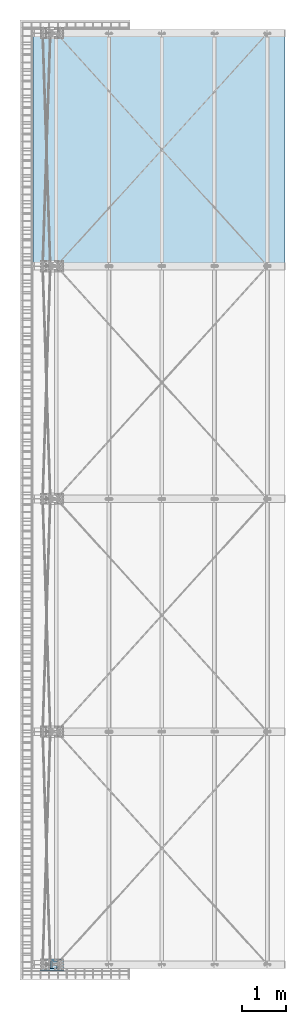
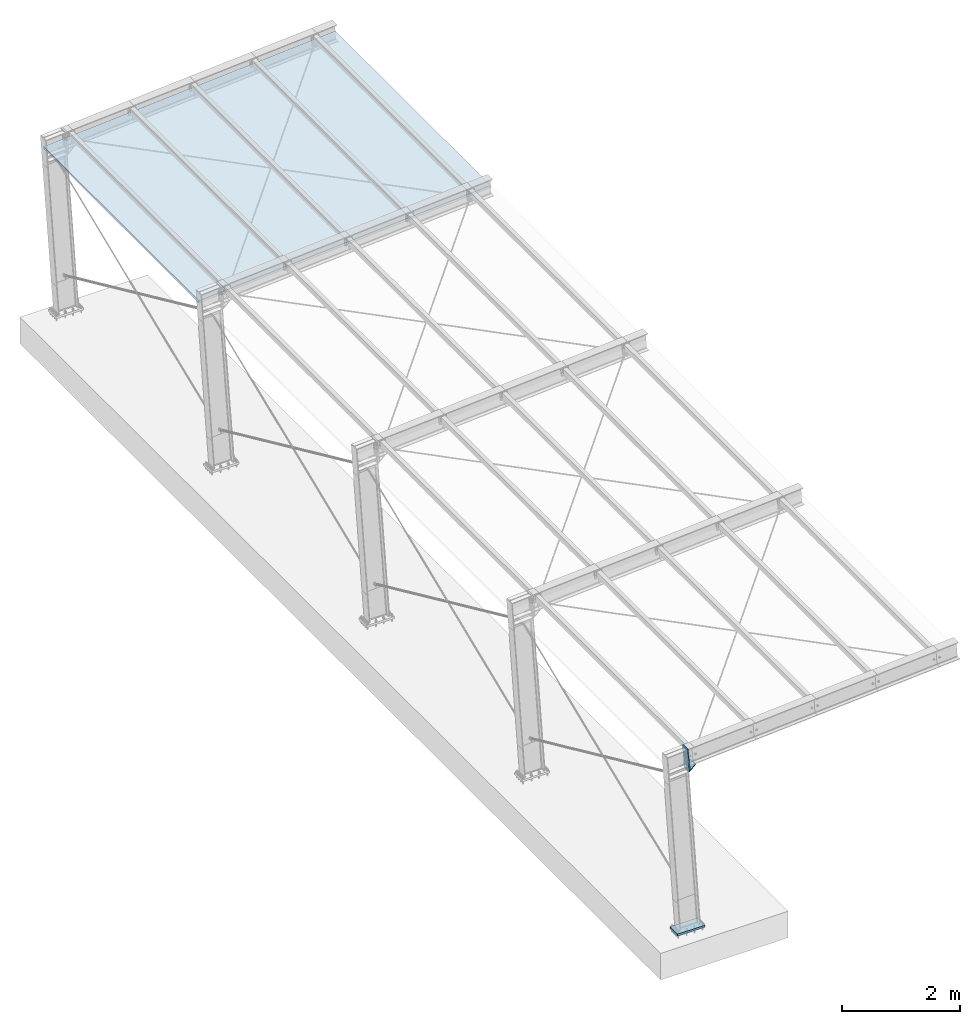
# One storey, part 3 of 72: 6 slabs, 3 plates.
"""IFC4 building model written with IfcOpenShell, lengths in metres."""

from ifc_helpers import new_model, si_unit, frame, origin_with_axes, place, context, project, spatial, polyline, outline, extrude, material, type_object, element, save


model = new_model("IFC4")

# Units and contexts
model_context = context("Model", 3, precision=1e-05, world=origin_with_axes())
ifc_project = project(units=[si_unit("LENGTHUNIT", "METRE"), si_unit("AREAUNIT", "SQUARE_METRE"), si_unit("VOLUMEUNIT", "CUBIC_METRE"), si_unit("MASSUNIT", "GRAM", prefix="KILO"), si_unit("TIMEUNIT", "SECOND"), si_unit("PLANEANGLEUNIT", "RADIAN"), si_unit("SOLIDANGLEUNIT", "STERADIAN"), si_unit("THERMODYNAMICTEMPERATUREUNIT", "DEGREE_CELSIUS")], contexts=[model_context])

# Site, building, storey
placement_1 = place(None, origin_with_axes())
site = spatial("IfcSite", under=ifc_project, at=placement_1, Name="Italia", CompositionType="ELEMENT")
building = spatial("IfcBuilding", under=site, at=placement_1, Name="Pensilina", CompositionType="ELEMENT")
storey = spatial("IfcBuildingStorey", under=building, at=placement_1, Name="Storey 0", CompositionType="ELEMENT", Elevation=0.0)

# Plates
plate_type_1 = type_object("IfcPlateType", Name="Collegamento 0001_-196", PredefinedType="SHEET")
placement_2 = place(placement_1, origin_with_axes())
plate_1_placement = place(placement_2, origin_with_axes())
element("IfcPlate", 1, at=plate_1_placement, inside=storey, type_object=plate_type_1, Name="Collegamento 0001_-196", context=model_context, shape_type="SweptSolid", body=[
    extrude(outline(polyline([(0.0, 0.0, 0.0), (-0.26, 0.0, 0.0), (-0.26, 0.54094, 0.0), (0.0, 0.54094, 0.0), (0.0, 0.0, 0.0)])), frame((0.65818, 0.13, 0.103708), z_axis=(0.0, 0.0, -1.0), x_axis=(0.0, 1.0, 0.0)), (0.0, 0.0, 1.0), 0.04),
])
plate_type_2 = type_object("IfcPlateType", Name="Collegamento 0101_0201", PredefinedType="SHEET")
plate_2_placement = place(placement_2, origin_with_axes())
element("IfcPlate", 2, at=plate_2_placement, inside=storey, type_object=plate_type_2, Name="Collegamento 0101_0201", context=model_context, shape_type="SweptSolid", body=[
    extrude(outline(polyline([(0.0, 0.0, 0.0), (-0.17, 0.0, 0.0), (-0.17, 0.48, 0.0), (0.0, 0.48, 0.0), (0.0, 0.0, 0.0)])), frame((0.934563, -0.085, 3.34984), z_axis=(-0.997648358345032, 0.0, -0.068540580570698), x_axis=(0.0, -1.0, 0.0)), (0.0, 0.0, 1.0), 0.025),
])
plate_type_3 = type_object("IfcPlateType", Name="Collegamento 0101_0201", PredefinedType="SHEET")
plate_3_placement = place(placement_2, origin_with_axes())
element("IfcPlate", 3, at=plate_3_placement, inside=storey, type_object=plate_type_3, Name="Collegamento 0101_0201", context=model_context, shape_type="SweptSolid", body=[
    extrude(outline(polyline([(0.0, 0.0, 0.0), (0.17, 0.0, 0.0), (0.17, -0.145344, 0.0), (0.0, -0.145344, 0.0), (0.0, 0.0, 0.0)])), frame((1.03608, -0.085, 3.47709), z_axis=(0.703953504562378, 0.0, -0.710246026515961), x_axis=(0.0, 1.0, 0.0)), (0.0, 0.0, 1.0), 0.0140001),
])

# Slabs
ifc_material_1 = material(Name="CEMENTO ARMATO", Category="CEMENTO ARMATO")
slab_type_1 = type_object("IfcSlabType", Name="1 Tettoia", PredefinedType="FLOOR", material=ifc_material_1)
slab_1_placement = place(placement_2, origin_with_axes())
element("IfcSlab", 4, at=slab_1_placement, inside=storey, type_object=slab_type_1, Name="403", context=model_context, shape_type="SweptSolid", body=[
    extrude(outline(polyline([(0.0, 0.0, 0.0), (0.0, 1.19995, 0.0), (5.28, 1.19995, 0.0), (5.28, 0.0, 0.0), (0.0, 0.0, 0.0)])), frame((2.22096, 15.84, 3.73892), z_axis=(0.068540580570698, 0.0, -0.997648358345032), x_axis=(0.0, 1.0, 0.0)), (0.0, 0.0, 1.0), 0.05),
])
ifc_material_2 = material(Name="CEMENTO ARMATO", Category="CEMENTO ARMATO")
slab_type_2 = type_object("IfcSlabType", Name="1 Tettoia", PredefinedType="FLOOR", material=ifc_material_2)
slab_2_placement = place(placement_2, origin_with_axes())
element("IfcSlab", 5, at=slab_2_placement, inside=storey, type_object=slab_type_2, Name="503", context=model_context, shape_type="SweptSolid", body=[
    extrude(outline(polyline([(0.0, 0.0, 0.0), (0.0, 1.20003, 0.0), (5.28, 1.20003, 0.0), (5.28, 0.0, 0.0), (0.0, 0.0, 0.0)])), frame((3.41809, 15.84, 3.82117), z_axis=(0.068540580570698, 0.0, -0.997648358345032), x_axis=(0.0, 1.0, 0.0)), (0.0, 0.0, 1.0), 0.05),
])
ifc_material_3 = material(Name="CEMENTO ARMATO", Category="CEMENTO ARMATO")
slab_type_3 = type_object("IfcSlabType", Name="1 Tettoia", PredefinedType="FLOOR", material=ifc_material_3)
slab_3_placement = place(placement_2, origin_with_axes())
element("IfcSlab", 6, at=slab_3_placement, inside=storey, type_object=slab_type_3, Name="603", context=model_context, shape_type="SweptSolid", body=[
    extrude(outline(polyline([(0.0, 0.0, 0.0), (0.0, 1.20003, 0.0), (5.28, 1.20003, 0.0), (5.28, 0.0, 0.0), (0.0, 0.0, 0.0)])), frame((4.6153, 15.84, 3.90342), z_axis=(0.068540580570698, 0.0, -0.997648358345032), x_axis=(0.0, 1.0, 0.0)), (0.0, 0.0, 1.0), 0.05),
])
ifc_material_4 = material(Name="CEMENTO ARMATO", Category="CEMENTO ARMATO")
slab_type_4 = type_object("IfcSlabType", Name="1 Tettoia", PredefinedType="FLOOR", material=ifc_material_4)
slab_4_placement = place(placement_2, origin_with_axes())
element("IfcSlab", 7, at=slab_4_placement, inside=storey, type_object=slab_type_4, Name="201", context=model_context, shape_type="SweptSolid", body=[
    extrude(outline(polyline([(0.0, 0.0, 0.0), (0.0, 0.535, 0.0), (5.28, 0.535, 0.0), (5.28, 0.0, 0.0), (0.0, 0.0, 0.0)])), frame((0.49, 15.84, 3.62), z_axis=(0.068540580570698, 0.0, -0.997648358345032), x_axis=(0.0, 1.0, 0.0)), (0.0, 0.0, 1.0), 0.05),
])
ifc_material_5 = material(Name="CEMENTO ARMATO", Category="CEMENTO ARMATO")
slab_type_5 = type_object("IfcSlabType", Name="1 Tettoia", PredefinedType="FLOOR", material=ifc_material_5)
slab_5_placement = place(placement_2, origin_with_axes())
element("IfcSlab", 8, at=slab_5_placement, inside=storey, type_object=slab_type_5, Name="702", context=model_context, shape_type="SweptSolid", body=[
    extrude(outline(polyline([(0.0, 0.0, 0.0), (0.0, 0.399981, 0.0), (5.28, 0.399981, 0.0), (5.28, 0.0, 0.0), (0.0, 0.0, 0.0)])), frame((5.81251, 15.84, 3.98567), z_axis=(0.068540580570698, 0.0, -0.997648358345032), x_axis=(0.0, 1.0, 0.0)), (0.0, 0.0, 1.0), 0.05),
])
ifc_material_6 = material(Name="CEMENTO ARMATO", Category="CEMENTO ARMATO")
slab_type_6 = type_object("IfcSlabType", Name="1 Tettoia", PredefinedType="FLOOR", material=ifc_material_6)
slab_6_placement = place(placement_2, origin_with_axes())
element("IfcSlab", 9, at=slab_6_placement, inside=storey, type_object=slab_type_6, Name="303", context=model_context, shape_type="SweptSolid", body=[
    extrude(outline(polyline([(0.0, 0.0, 0.0), (0.0, 1.20004, 0.0), (5.28, 1.20004, 0.0), (5.28, 0.0, 0.0), (0.0, 0.0, 0.0)])), frame((1.02374, 15.84, 3.65667), z_axis=(0.068540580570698, 0.0, -0.997648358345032), x_axis=(0.0, 1.0, 0.0)), (0.0, 0.0, 1.0), 0.05),
])

save(model, "model.ifc")
